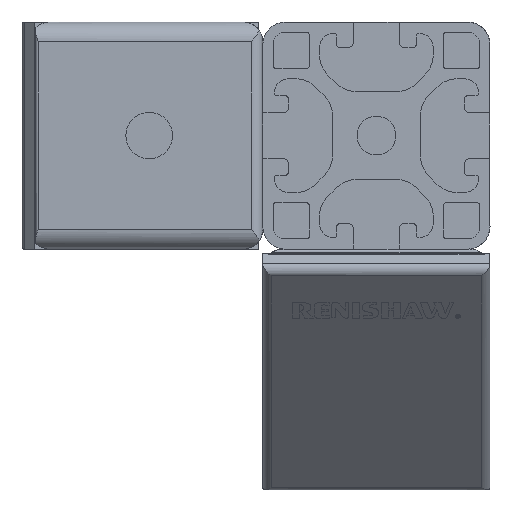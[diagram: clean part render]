
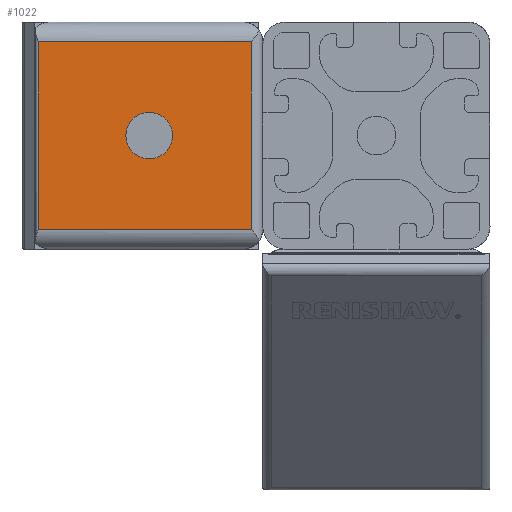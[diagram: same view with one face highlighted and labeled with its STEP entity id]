
A CAD part, front view. The second image highlights one B-rep face of the part: STEP entity #1022.
In plain terms, the highlighted planar face has unit normal (0, -1, 0).
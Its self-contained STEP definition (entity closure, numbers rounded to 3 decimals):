
#560=CIRCLE('',#4408,4.1);
#561=CIRCLE('',#4409,4.1);
#772=FACE_BOUND('',#1349,.T.);
#773=FACE_BOUND('',#1350,.T.);
#1022=ADVANCED_FACE('',(#772,#773),#1134,.T.);
#1134=PLANE('',#4427);
#1349=EDGE_LOOP('',(#1711,#1712,#1713,#1714));
#1350=EDGE_LOOP('',(#1715,#1716));
#1711=ORIENTED_EDGE('',*,*,#3363,.F.);
#1712=ORIENTED_EDGE('',*,*,#3364,.T.);
#1713=ORIENTED_EDGE('',*,*,#3343,.T.);
#1714=ORIENTED_EDGE('',*,*,#3362,.T.);
#1715=ORIENTED_EDGE('',*,*,#3338,.T.);
#1716=ORIENTED_EDGE('',*,*,#3339,.T.);
#2792=VERTEX_POINT('',#6224);
#2793=VERTEX_POINT('',#6225);
#2794=VERTEX_POINT('',#6241);
#2797=VERTEX_POINT('',#6255);
#2807=VERTEX_POINT('',#6327);
#2808=VERTEX_POINT('',#6331);
#3338=EDGE_CURVE('',#2792,#2793,#560,.T.);
#3339=EDGE_CURVE('',#2793,#2792,#561,.T.);
#3343=EDGE_CURVE('',#2794,#2797,#3872,.T.);
#3362=EDGE_CURVE('',#2797,#2807,#3878,.T.);
#3363=EDGE_CURVE('',#2808,#2807,#3879,.T.);
#3364=EDGE_CURVE('',#2808,#2794,#3880,.T.);
#3872=LINE('',#6256,#4138);
#3878=LINE('',#6328,#4144);
#3879=LINE('',#6330,#4145);
#3880=LINE('',#6332,#4146);
#4138=VECTOR('',#4757,1.);
#4144=VECTOR('',#4793,1.);
#4145=VECTOR('',#4796,1.);
#4146=VECTOR('',#4797,1.);
#4408=AXIS2_PLACEMENT_3D('',#6223,#4750,#4751);
#4409=AXIS2_PLACEMENT_3D('',#6226,#4752,#4753);
#4427=AXIS2_PLACEMENT_3D('',#6333,#4798,#4799);
#4750=DIRECTION('',(0.,1.,0.));
#4751=DIRECTION('',(0.,0.,1.));
#4752=DIRECTION('',(0.,1.,0.));
#4753=DIRECTION('',(0.,0.,1.));
#4757=DIRECTION('',(0.,0.,-1.));
#4793=DIRECTION('',(1.,0.,0.));
#4796=DIRECTION('',(0.,0.,-1.));
#4797=DIRECTION('',(-1.,0.,0.));
#4798=DIRECTION('',(0.,-1.,0.));
#4799=DIRECTION('',(-1.,0.,0.));
#6223=CARTESIAN_POINT('',(-20.,-100.,-20.));
#6224=CARTESIAN_POINT('',(-20.,-100.,-15.9));
#6225=CARTESIAN_POINT('',(-20.,-100.,-24.1));
#6226=CARTESIAN_POINT('',(-20.,-100.,-20.));
#6241=CARTESIAN_POINT('',(-39.5,-100.,-3.5));
#6255=CARTESIAN_POINT('',(-39.5,-100.,-36.5));
#6256=CARTESIAN_POINT('',(-39.5,-100.,0.));
#6327=CARTESIAN_POINT('',(-2.,-100.,-36.5));
#6328=CARTESIAN_POINT('',(-39.75,-100.,-36.5));
#6330=CARTESIAN_POINT('',(-2.,-100.,0.));
#6331=CARTESIAN_POINT('',(-2.,-100.,-3.5));
#6332=CARTESIAN_POINT('',(-20.75,-100.,-3.5));
#6333=CARTESIAN_POINT('',(-39.5,-100.,0.));
